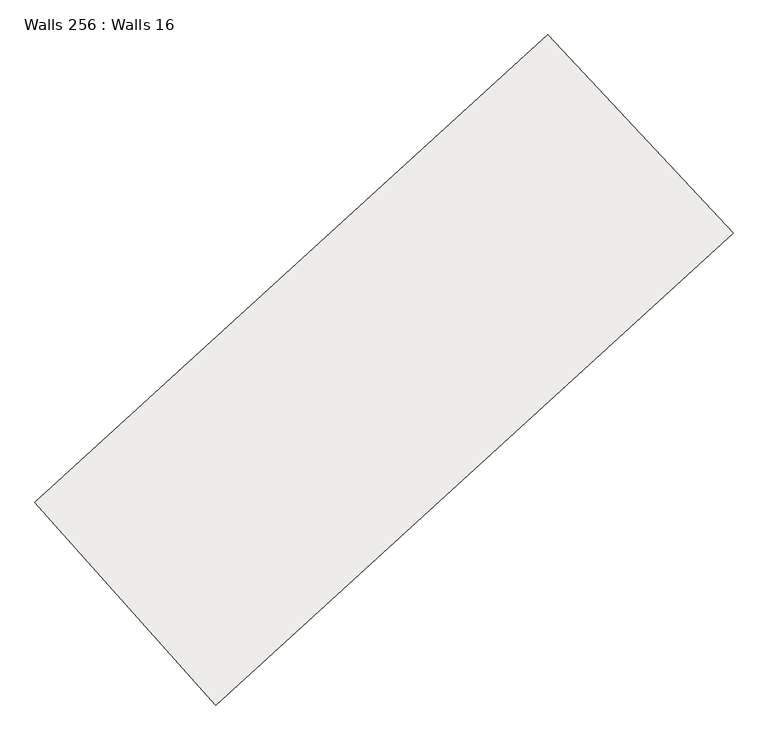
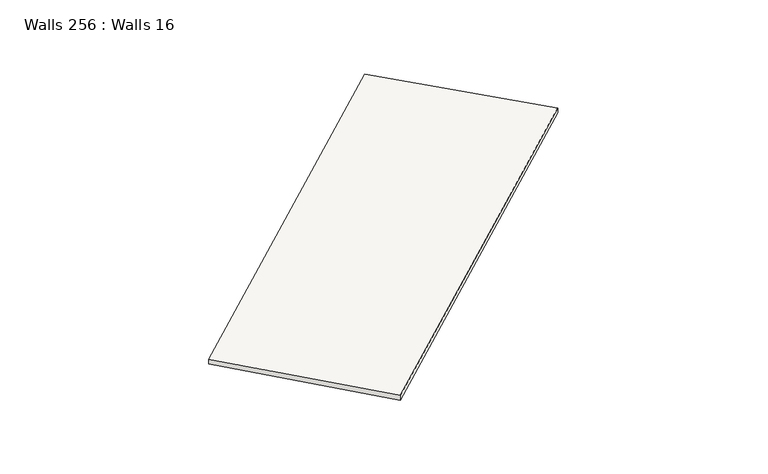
"""IFC4 building model written with IfcOpenShell, lengths in millimetres: slab geometry, Walls 256 : Walls 16."""

from ifc_helpers import new_model, si_unit, frame, origin, place, context, project, spatial, source, transform, mapped, element, save
from ifc_brep_helpers import plane_surface, spline_curve, spline_surface, advanced_brep


def walls_256_walls_16_8c94d8b4(model_context):
    return source(origin(), model_context, "Body", "AdvancedBrep", [
        advanced_brep(
        [(-244222.7737133, -407299.8186954, 634620.0), (-244222.7737133, -407299.8186954, 634520.0), (-246542.884908, -404818.3801466, 634520.0), (-246542.884908, -404818.3801466, 634620.0), (-250693.5123539, -413204.9610815, 634550.0), (-252953.6049194, -410667.4858834, 634550.0), (-252953.6049194, -410667.4858834, 634450.0), (-250693.5123539, -413204.9610815, 634450.0)],
        [
            (0, 1),
            (1, 2),
            (2, 3),
            (3, 0),
            (4, 5),
            (5, 6),
            (6, 7),
            (7, 4),
            (4, 0, spline_curve(3, [(-250693.5123539, -413204.9610815, 634550.0), (-248512.919848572, -411262.738783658, 634573.333333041), (-246355.797016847, -409294.166388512, 634596.666666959), (-244222.7737133, -407299.8186954, 634620.0)], [4, 4], [0.0, 28.60757768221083])),
            (3, 5, spline_curve(3, [(-246542.884908, -404818.3801466, 634620.0), (-248656.131436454, -406793.810681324, 634596.666666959), (-250793.246151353, -408743.702330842, 634573.333333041), (-252953.6049194, -410667.4858834, 634550.0)], [4, 4], [0.0, 28.60757768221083])),
            (7, 1, spline_curve(3, [(-250693.5123539, -413204.9610815, 634450.0), (-248512.919848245, -411262.738783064, 634473.333333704), (-246355.797016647, -409294.166388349, 634496.666666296), (-244222.7737133, -407299.8186954, 634520.0)], [4, 4], [0.0, 28.742264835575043])),
            (6, 2, spline_curve(3, [(-252953.6049194, -410667.4858834, 634450.0), (-250793.246151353, -408743.702330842, 634473.333333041), (-248656.131436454, -406793.810681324, 634496.666666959), (-246542.884908, -404818.3801466, 634520.0)], [4, 4], [0.0, 28.60757768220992])),
        ],
        [
            plane_surface(frame((-245382.8293106, -406059.099421, 634570.0), z_axis=(0.7304526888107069, 0.6829633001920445, 0.0), x_axis=(0.0, 0.0, -1.0))),
            plane_surface(frame((-251823.5586367, -411936.2234824, 634500.0), z_axis=(-0.7467427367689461, -0.6651129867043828, 0.0), x_axis=(0.0, 0.0, -1.0))),
            spline_surface(3, 3, [[(-252953.6049194, -410667.4858834, 634550.0), (-250793.246151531, -408743.702330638, 634573.333333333), (-248656.131436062, -406793.810681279, 634596.666666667), (-246542.884908, -404818.3801466, 634620.0)], [(-252200.240730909, -411513.310949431, 634550.0), (-250033.137383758, -409583.381148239, 634573.333333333), (-247889.353296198, -407627.262583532, 634596.666666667), (-245769.514509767, -405645.526329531, 634620.0)], [(-251446.876542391, -412359.136015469, 634550.0), (-249273.028615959, -410423.059965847, 634573.333333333), (-247122.575156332, -408460.714485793, 634596.666666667), (-244996.144111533, -406472.672512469, 634620.0)], [(-250693.5123539, -413204.9610815, 634550.0), (-248512.919848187, -411262.738783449, 634573.333333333), (-246355.797016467, -409294.166388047, 634596.666666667), (-244222.7737133, -407299.8186954, 634620.0)]], [4, 4], [4, 4], [0.0, 11.146952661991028], [0.0, 28.60757768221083]),
            spline_surface(3, 3, [[(-250693.5123539, -413204.9610815, 634550.0), (-248512.919848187, -411262.738783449, 634573.333333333), (-246355.797016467, -409294.166388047, 634596.666666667), (-244222.7737133, -407299.8186954, 634620.0)], [(-250693.5123539, -413204.9610815, 634516.666666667), (-248512.919848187, -411262.738783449, 634540.0), (-246355.797016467, -409294.166388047, 634563.333333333), (-244222.7737133, -407299.8186954, 634586.666666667)], [(-250693.5123539, -413204.9610815, 634483.333333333), (-248512.919848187, -411262.738783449, 634506.666666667), (-246355.797016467, -409294.166388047, 634530.0), (-244222.7737133, -407299.8186954, 634553.333333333)], [(-250693.5123539, -413204.9610815, 634450.0), (-248512.919848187, -411262.738783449, 634473.333333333), (-246355.797016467, -409294.166388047, 634496.666666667), (-244222.7737133, -407299.8186954, 634520.0)]], [4, 4], [4, 4], [0.0, 0.3280839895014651], [0.0, 28.742264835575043]),
            spline_surface(3, 3, [[(-250693.5123539, -413204.9610815, 634450.0), (-248512.919848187, -411262.738783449, 634473.333333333), (-246355.797016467, -409294.166388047, 634496.666666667), (-244222.7737133, -407299.8186954, 634520.0)], [(-251446.876542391, -412359.136015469, 634450.0), (-249273.028615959, -410423.059965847, 634473.333333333), (-247122.575156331, -408460.714485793, 634496.666666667), (-244996.144111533, -406472.672512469, 634520.0)], [(-252200.240730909, -411513.310949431, 634450.0), (-250033.137383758, -409583.381148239, 634473.333333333), (-247889.353296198, -407627.262583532, 634496.666666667), (-245769.514509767, -405645.526329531, 634520.0)], [(-252953.6049194, -410667.4858834, 634450.0), (-250793.246151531, -408743.702330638, 634473.333333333), (-248656.131436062, -406793.810681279, 634496.666666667), (-246542.884908, -404818.3801466, 634520.0)]], [4, 4], [4, 4], [0.0, 11.146952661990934], [0.0, 28.60757768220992]),
            spline_surface(3, 3, [[(-252953.6049194, -410667.4858834, 634450.0), (-250793.246151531, -408743.702330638, 634473.333333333), (-248656.131436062, -406793.810681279, 634496.666666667), (-246542.884908, -404818.3801466, 634520.0)], [(-252953.6049194, -410667.4858834, 634483.333333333), (-250793.246151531, -408743.702330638, 634506.666666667), (-248656.131436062, -406793.810681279, 634530.0), (-246542.884908, -404818.3801466, 634553.333333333)], [(-252953.6049194, -410667.4858834, 634516.666666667), (-250793.246151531, -408743.702330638, 634540.0), (-248656.131436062, -406793.810681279, 634563.333333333), (-246542.884908, -404818.3801466, 634586.666666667)], [(-252953.6049194, -410667.4858834, 634550.0), (-250793.246151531, -408743.702330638, 634573.333333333), (-248656.131436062, -406793.810681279, 634596.666666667), (-246542.884908, -404818.3801466, 634620.0)]], [4, 4], [4, 4], [0.0, 0.3280839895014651], [0.0, 28.47289065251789]),
        ],
        [
            (0, [[1, 2, 3, 4]]),
            (1, [[5, 6, 7, 8]]),
            (2, [[-5, 9, -4, 10]]),
            (3, [[-8, 11, -1, -9]]),
            (4, [[-7, 12, -2, -11]]),
            (5, [[-6, -10, -3, -12]]),
        ],
    ),
    ])


if __name__ == "__main__":
    model = new_model("IFC4")
    model_context = context("Model", 3, world=origin())
    ifc_project = project(units=[si_unit("LENGTHUNIT", "METRE", prefix="MILLI")], contexts=[model_context])
    site = spatial("IfcSite", under=ifc_project)
    building = spatial("IfcBuilding", under=site)
    placement = place(None, origin())
    walls_256_walls_16_shape = walls_256_walls_16_8c94d8b4(model_context)
    element("IfcSlab", 1, ObjectType="Walls 256 : Walls 16", at=placement, inside=building, context=model_context, shape_type="MappedRepresentation", body=[
        mapped(walls_256_walls_16_shape, transform((0.0, 0.0, 0.0), x_axis=(1.0, 0.0, 0.0), y_axis=(0.0, 1.0, 0.0), z_axis=(0.0, 0.0, 1.0))),
    ])
    save(model, "model.ifc")
